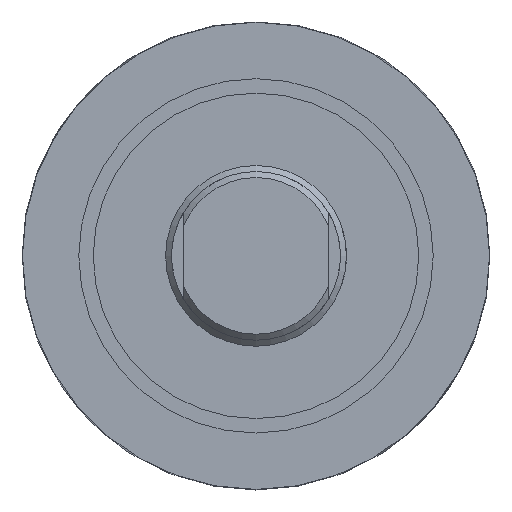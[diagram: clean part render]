
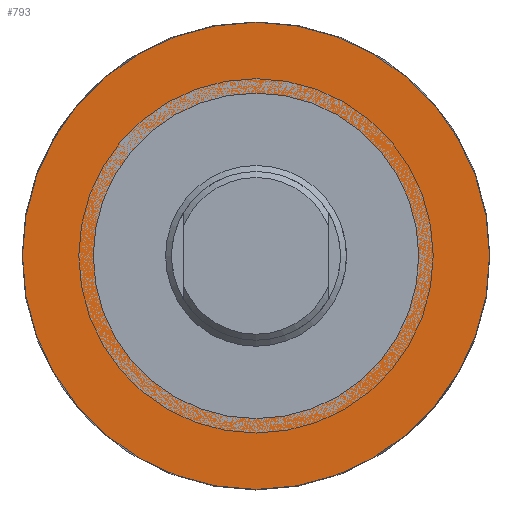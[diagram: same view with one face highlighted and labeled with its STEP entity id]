
A CAD part, left-side view. The second image highlights one B-rep face of the part: STEP entity #793.
In plain terms, the highlighted planar face has unit normal (-1, 0, 0).
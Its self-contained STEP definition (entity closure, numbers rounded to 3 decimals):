
#146=FACE_OUTER_BOUND('',#199,.T.);
#199=EDGE_LOOP('',(#585));
#258=CIRCLE('',#897,38.756);
#335=VERTEX_POINT('',#1415);
#427=EDGE_CURVE('',#335,#335,#258,.T.);
#585=ORIENTED_EDGE('',*,*,#427,.T.);
#699=PLANE('',#896);
#793=ADVANCED_FACE('',(#146),#699,.T.);
#896=AXIS2_PLACEMENT_3D('',#1414,#1083,#1084);
#897=AXIS2_PLACEMENT_3D('',#1416,#1085,#1086);
#1083=DIRECTION('center_axis',(-1.,0.,0.));
#1084=DIRECTION('ref_axis',(0.,0.,-1.));
#1085=DIRECTION('center_axis',(-1.,0.,0.));
#1086=DIRECTION('ref_axis',(0.,0.,1.));
#1414=CARTESIAN_POINT('Origin',(75.5,-34.078,0.));
#1415=CARTESIAN_POINT('',(75.5,0.,-38.756));
#1416=CARTESIAN_POINT('Origin',(75.5,0.,0.));
